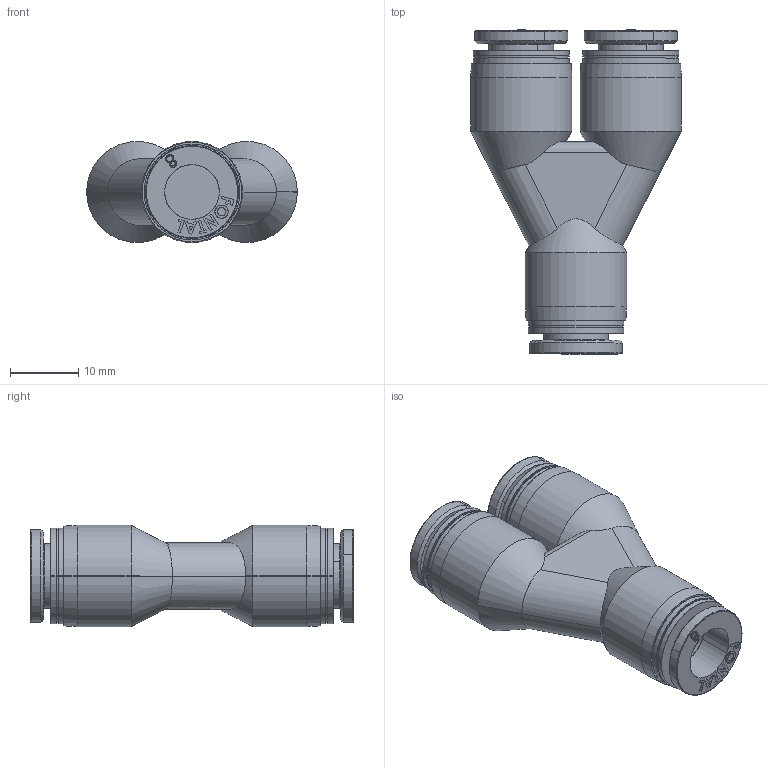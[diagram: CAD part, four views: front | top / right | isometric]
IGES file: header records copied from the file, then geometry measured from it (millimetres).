
Start section: SolidWorks IGES file using analytic representation for surfaces
Global section: file name: D:\Custom\3D繪製\ADDITIONAL\FPY\FPY8.IGS,1; native system: 5HSolidWorks 2014; preprocessor: SolidWorks 2014; author: Chieh_Lu; date: 160115.050941; units: millimetre
Bounding box: 30.8 x 47.36 x 14.8 mm (x, y, z)
Surface area: 6134.2 mm2 (no closed solid volume)
Topology: 0 solids, 0 shells, 369 faces, 4540 edges, 4528 vertices
Faces by surface type: bspline 291, revolution 78
